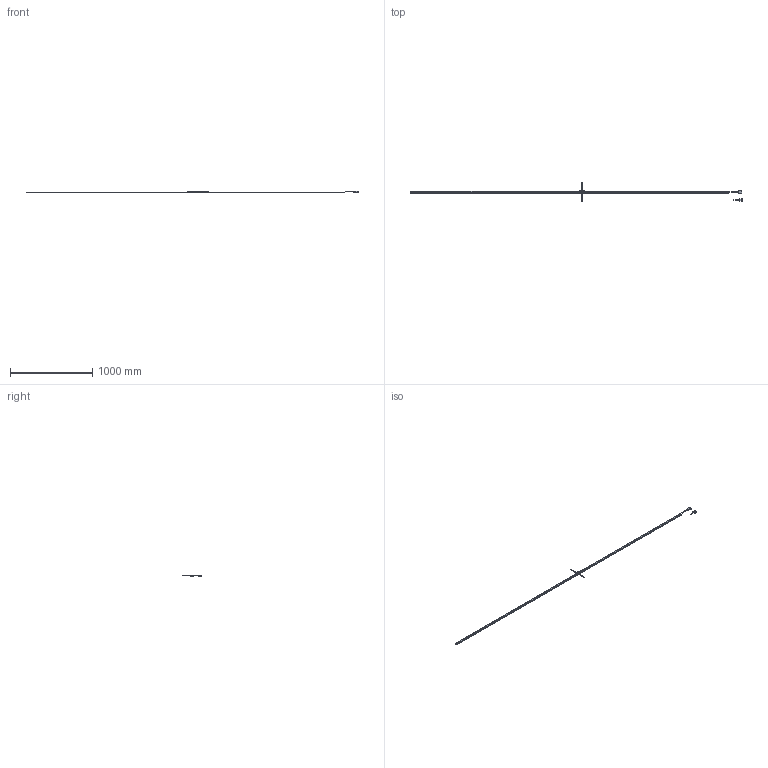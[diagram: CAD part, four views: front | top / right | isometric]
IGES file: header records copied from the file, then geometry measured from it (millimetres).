
Start section: Elysium IGES Interface
Global section: file name: 78H\\Utsu119s\kiyo_cad\data\3D\ST700_小型\HP掲載用_201802\PKG\ABS_ST700-3800A.igs; native system: Creo Elements/Direct Modeling 18.1B  29-Sep-2012; preprocessor: Creo Element/Direct IGES_3D V2.2; author: Unknown; organization: Unknown; date: 20180214.131813; units: millimetre
Bounding box: 4044.5 x 227.7 x 23.3 mm (x, y, z)
Volume: 794884.5 mm3; surface area: 293251.8 mm2
Topology: 7 solids, 7 shells, 6888 faces, 18839 edges, 12391 vertices
Faces by surface type: bspline 6888
